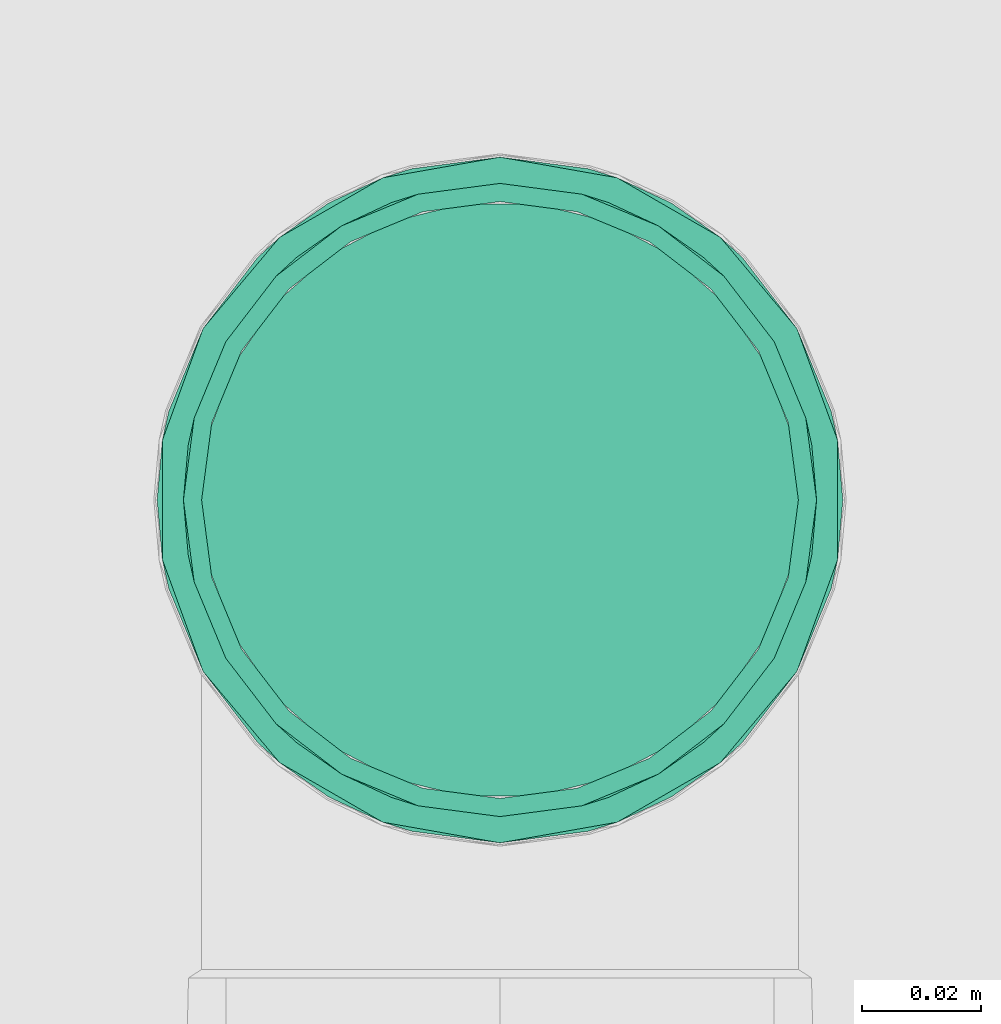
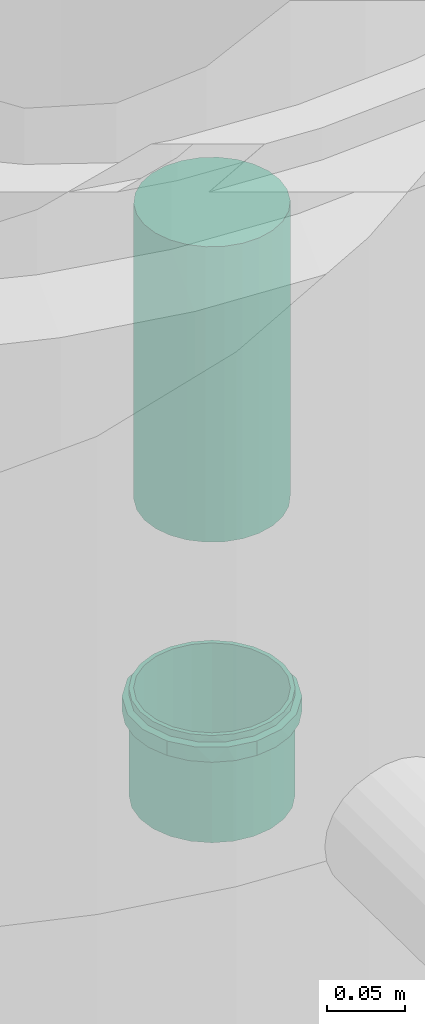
# One storey, part 175 of 589: 1 flow fitting, 1 flow segment.
"""IFC2X3 building model written with IfcOpenShell, lengths in millimetres."""

from ifc_helpers import new_model, entity, si_unit, converted_unit, derived_unit, direction, frame, origin, origin_2d_with_axis, place, context, subcontext, project, spatial, circle, extrude, faceted_brep, source, transform, mapped, material, type_object, type_shapes, element, save


model = new_model("IFC2X3")

# Units and contexts
model_context = context("Model", 3, precision=0.01, world=origin(), true_north=direction((6.123031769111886e-17, 1.0)))
body_context = subcontext(model_context, "Body", "Model", "MODEL_VIEW")
ifc_project = project(units=[si_unit("LENGTHUNIT", "METRE", prefix="MILLI"), si_unit("AREAUNIT", "SQUARE_METRE"), si_unit("VOLUMEUNIT", "CUBIC_METRE"), converted_unit("PLANEANGLEUNIT", "DEGREE", entity("IfcRatioMeasure", 0.017453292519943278), si_unit("PLANEANGLEUNIT", "RADIAN"), dimensions=[0, 0, 0, 0, 0, 0, 0]), si_unit("MASSUNIT", "GRAM", prefix="KILO"), derived_unit("MASSDENSITYUNIT", [(si_unit("MASSUNIT", "GRAM", prefix="KILO"), 1), (si_unit("LENGTHUNIT", "METRE"), -3)]), derived_unit("IONCONCENTRATIONUNIT", [(si_unit("MASSUNIT", "GRAM", prefix="KILO"), 1), (si_unit("LENGTHUNIT", "METRE"), -3)]), derived_unit("MOMENTOFINERTIAUNIT", [(si_unit("LENGTHUNIT", "METRE"), 4)]), si_unit("TIMEUNIT", "SECOND"), si_unit("FREQUENCYUNIT", "HERTZ"), si_unit("THERMODYNAMICTEMPERATUREUNIT", "DEGREE_CELSIUS"), derived_unit("THERMALTRANSMITTANCEUNIT", [(si_unit("MASSUNIT", "GRAM", prefix="KILO"), 1), (si_unit("THERMODYNAMICTEMPERATUREUNIT", "KELVIN"), -1), (si_unit("TIMEUNIT", "SECOND"), -3)]), derived_unit("THERMALCONDUCTANCEUNIT", [(si_unit("MASSUNIT", "GRAM", prefix="KILO"), 1), (si_unit("THERMODYNAMICTEMPERATUREUNIT", "KELVIN"), -1), (si_unit("TIMEUNIT", "SECOND"), -3), (si_unit("LENGTHUNIT", "METRE"), 1)]), derived_unit("VOLUMETRICFLOWRATEUNIT", [(si_unit("LENGTHUNIT", "METRE"), 3), (si_unit("TIMEUNIT", "SECOND"), -1)]), derived_unit("MASSFLOWRATEUNIT", [(si_unit("MASSUNIT", "GRAM", prefix="KILO"), 1), (si_unit("TIMEUNIT", "SECOND"), -1)]), derived_unit("ROTATIONALFREQUENCYUNIT", [(si_unit("TIMEUNIT", "SECOND"), -1)]), si_unit("ELECTRICCURRENTUNIT", "AMPERE"), si_unit("ELECTRICVOLTAGEUNIT", "VOLT"), si_unit("POWERUNIT", "WATT"), si_unit("FORCEUNIT", "NEWTON", prefix="KILO"), si_unit("ILLUMINANCEUNIT", "LUX"), si_unit("LUMINOUSFLUXUNIT", "LUMEN"), si_unit("LUMINOUSINTENSITYUNIT", "CANDELA"), derived_unit("USERDEFINED", [(si_unit("MASSUNIT", "GRAM", prefix="KILO"), -1), (si_unit("LENGTHUNIT", "METRE"), -2), (si_unit("TIMEUNIT", "SECOND"), 3), (si_unit("LUMINOUSFLUXUNIT", "LUMEN"), 1)]), derived_unit("USERDEFINED", [(si_unit("MASSUNIT", "GRAM", prefix="KILO"), 1), (si_unit("TIMEUNIT", "SECOND"), -3), (si_unit("LENGTHUNIT", "METRE"), 3), (si_unit("ELECTRICCURRENTUNIT", "AMPERE"), -2)]), derived_unit("SOUNDPOWERUNIT", [(si_unit("MASSUNIT", "GRAM", prefix="KILO"), 1), (si_unit("TIMEUNIT", "SECOND"), -3), (si_unit("LENGTHUNIT", "METRE"), 2)]), derived_unit("SOUNDPRESSUREUNIT", [(si_unit("MASSUNIT", "GRAM", prefix="KILO"), 1), (si_unit("LENGTHUNIT", "METRE"), -1), (si_unit("TIMEUNIT", "SECOND"), -2)]), derived_unit("LINEARVELOCITYUNIT", [(si_unit("LENGTHUNIT", "METRE"), 1), (si_unit("TIMEUNIT", "SECOND"), -1)]), si_unit("PRESSUREUNIT", "PASCAL"), derived_unit("USERDEFINED", [(si_unit("MASSUNIT", "GRAM", prefix="KILO"), 1), (si_unit("LENGTHUNIT", "METRE"), -2), (si_unit("TIMEUNIT", "SECOND"), -2)]), derived_unit("LINEARFORCEUNIT", [(si_unit("MASSUNIT", "GRAM", prefix="KILO"), 1), (si_unit("TIMEUNIT", "SECOND"), -2)]), derived_unit("PLANARFORCEUNIT", [(si_unit("MASSUNIT", "GRAM", prefix="KILO"), 1), (si_unit("LENGTHUNIT", "METRE"), -1), (si_unit("TIMEUNIT", "SECOND"), -2)]), derived_unit("SPECIFICHEATCAPACITYUNIT", [(si_unit("THERMODYNAMICTEMPERATUREUNIT", "KELVIN"), -1), (si_unit("LENGTHUNIT", "METRE"), 2), (si_unit("TIMEUNIT", "SECOND"), -2)]), derived_unit("HEATINGVALUEUNIT", [(si_unit("LENGTHUNIT", "METRE"), 2), (si_unit("TIMEUNIT", "SECOND"), -2)]), derived_unit("VAPORPERMEABILITYUNIT", [(si_unit("LENGTHUNIT", "METRE"), -1), (si_unit("TIMEUNIT", "SECOND"), 1)]), derived_unit("DYNAMICVISCOSITYUNIT", [(si_unit("MASSUNIT", "GRAM", prefix="KILO"), 1), (si_unit("TIMEUNIT", "SECOND"), -1), (si_unit("LENGTHUNIT", "METRE"), -1)]), derived_unit("THERMALEXPANSIONCOEFFICIENTUNIT", [(si_unit("THERMODYNAMICTEMPERATUREUNIT", "KELVIN"), -1)]), derived_unit("MODULUSOFELASTICITYUNIT", [(si_unit("MASSUNIT", "GRAM", prefix="KILO"), 1), (si_unit("LENGTHUNIT", "METRE"), -1), (si_unit("TIMEUNIT", "SECOND"), -2)]), derived_unit("ISOTHERMALMOISTURECAPACITYUNIT", [(si_unit("LENGTHUNIT", "METRE"), 3), (si_unit("MASSUNIT", "GRAM", prefix="KILO"), -1)]), derived_unit("MOISTUREDIFFUSIVITYUNIT", [(si_unit("TIMEUNIT", "SECOND"), -1), (si_unit("LENGTHUNIT", "METRE"), 2)])], contexts=[model_context])

# Site, building, storey
site_placement = place(None, origin())
site = spatial("IfcSite", under=ifc_project, at=site_placement, Name="Default", CompositionType="ELEMENT")
building_placement = place(site_placement, origin())
building = spatial("IfcBuilding", under=site, at=building_placement, CompositionType="ELEMENT")
storey_placement = place(building_placement, frame((0.0, 0.0, 100.0)))
storey = spatial("IfcBuildingStorey", under=building, at=storey_placement, Name="TÉRREO", CompositionType="ELEMENT", Elevation=100.0)

# Flow segment
pipe_segment_type = type_object("IfcPipeSegmentType", Name="Tipos de tubos:PVC Esgoto Série Normal", PredefinedType="NOTDEFINED")
flow_segment_placement = place(storey_placement, origin())
element("IfcFlowSegment", 1, at=flow_segment_placement, inside=storey, type_object=pipe_segment_type, Name="Tipos de tubos:PVC Esgoto Série Normal", ObjectType="Tipos de tubos:PVC Esgoto Série Normal", context=body_context, shape_type="SweptSolid", body=[
    extrude(circle(Radius=50.0, at=origin_2d_with_axis()), frame((20055.667196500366, -9094.0021263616, -547.5499999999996), z_axis=(0.0, 0.0, 1.0), x_axis=(-1.0, 0.0, 0.0)), (0.0, 0.0, 1.0), 229.9999999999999),
])

# Flow fitting
ifc_material = material(Name="PVC Série Normal")
pipe_fitting_type = type_object("IfcPipeFittingType", Name="PVC Esgoto_Luva Simples para Conexão_Rodrigo MEP:Standard", PredefinedType="NOTDEFINED", material=ifc_material)
shared_shape = source(origin(), body_context, "Body", "Brep", [
    faceted_brep([(17.770000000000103, 28.72500000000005, -49.753159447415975), (17.770000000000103, 40.62328457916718, -40.62328457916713), (17.770000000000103, 26.524999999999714, -45.94264767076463), (17.770000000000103, 13.730350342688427, -51.242365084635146), (17.770000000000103, 14.86915414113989, -55.49243872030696), (17.770000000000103, 37.5120147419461, -37.51201474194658), (17.770000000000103, 49.75315944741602, -28.724999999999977), (17.770000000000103, 45.94264767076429, -26.52500000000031), (17.770000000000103, 51.24236508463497, -13.730350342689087), (17.770000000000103, 55.49243872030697, -14.869154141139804), (17.770000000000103, 53.05, 0.0), (17.770000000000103, 57.45, 0.0), (17.770000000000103, 51.242365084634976, 13.730350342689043), (17.770000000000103, 55.49243872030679, 14.869154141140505), (17.770000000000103, 45.942647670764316, 26.52500000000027), (17.770000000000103, 49.753159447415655, 28.725000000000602), (17.770000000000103, 37.51201474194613, 37.51201474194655), (17.770000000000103, 40.62328457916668, 40.62328457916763), (17.770000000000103, 26.524999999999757, 45.9426476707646), (17.770000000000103, 28.72499999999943, 49.75315944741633), (17.770000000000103, 13.730350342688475, 51.24236508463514), (17.770000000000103, 14.8691541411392, 55.49243872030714), (17.770000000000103, 0.0, 53.05), (17.770000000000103, 0.0, 57.45), (17.770000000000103, -13.730350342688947, 51.24236508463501), (17.770000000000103, -14.869154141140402, 55.49243872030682), (17.770000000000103, -26.52500000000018, 45.94264767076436), (17.770000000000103, -28.725000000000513, 49.753159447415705), (17.770000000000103, -37.51201474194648, 37.5120147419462), (17.770000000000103, -40.62328457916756, 40.62328457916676), (17.770000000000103, -45.94264767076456, 26.524999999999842), (17.770000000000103, -49.7531594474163, 28.724999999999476), (17.770000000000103, -55.49243872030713, 14.869154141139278), (17.770000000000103, -51.24236508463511, 13.730350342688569), (17.770000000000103, -57.45, 0.0), (17.770000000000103, -53.05, 0.0), (17.770000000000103, -55.49243872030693, -14.86915414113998), (17.770000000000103, -51.24236508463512, -13.73035034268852), (17.770000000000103, -49.75315944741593, -28.72500000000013), (17.770000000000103, -45.942647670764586, -26.5249999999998), (17.770000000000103, -40.62328457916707, -40.62328457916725), (17.770000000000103, -37.512014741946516, -37.51201474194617), (17.770000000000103, -28.724999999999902, -49.75315944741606), (17.770000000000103, -26.525000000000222, -45.94264767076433), (17.770000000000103, -14.869154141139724, -55.492438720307), (17.770000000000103, -13.730350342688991, -51.242365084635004), (17.770000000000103, 0.0, -57.45), (17.770000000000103, 0.0, -53.05), (6.570000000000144, -19.34638876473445, 53.16657713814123), (6.57000000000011, -44.00761900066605, 36.93009572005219), (6.5700000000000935, -48.99626263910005, 28.290173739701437), (6.5700000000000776, -53.98490627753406, 19.65025175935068), (6.570000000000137, -28.721697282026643, 49.75506612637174), (6.570000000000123, -36.36465814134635, 43.34258092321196), (6.57000000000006, -55.71745313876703, 9.825125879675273), (6.570000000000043, -57.45, 0.0), (6.570000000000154, -9.971080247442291, 56.57808814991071), (6.570000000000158, 9.98234714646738, 56.576101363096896), (6.570000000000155, 0.005633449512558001, 56.577094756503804), (6.570000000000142, 36.37328876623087, 43.33533831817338), (6.570000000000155, 19.356976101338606, 53.16272339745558), (6.570000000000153, 28.73160505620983, 49.749345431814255), (6.5700000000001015, 53.988818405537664, 19.639500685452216), (6.570000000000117, 49.00189544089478, 28.280415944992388), (6.570000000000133, 44.01497247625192, 36.921331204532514), (6.570000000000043, 57.45, 0.0), (6.569999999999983, 44.01497247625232, -36.92133120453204), (6.569999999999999, 49.0018954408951, -28.280415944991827), (6.570000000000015, 53.98881840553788, -19.63950068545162), (6.569999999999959, 28.731605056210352, -49.74934543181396), (6.569999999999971, 36.37328876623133, -43.335338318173), (6.569999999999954, 19.35697610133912, -53.16272339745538), (6.569999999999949, 9.982347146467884, -56.57610136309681), (6.569999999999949, -9.97108024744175, -56.578088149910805), (6.569999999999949, 0.005633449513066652, -56.577094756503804), (6.569999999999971, -36.364658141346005, -43.34258092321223), (6.56999999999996, -28.72169728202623, -49.755066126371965), (6.569999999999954, -19.346388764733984, -53.16657713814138), (6.57000000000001, -53.984906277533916, -19.650251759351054), (6.569999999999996, -48.99626263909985, -28.290173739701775), (6.569999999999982, -44.007619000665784, -36.93009572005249), (6.570000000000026, -55.717453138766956, -9.825125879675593), (83.52000000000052, 26.525000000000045, -45.942647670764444), (83.52000000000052, 37.512014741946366, -37.51201474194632), (83.52000000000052, 25.0, -43.301270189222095), (83.52000000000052, 12.940952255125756, -48.2962913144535), (83.52000000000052, 13.73035034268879, -51.242365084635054), (83.52000000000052, 35.35533905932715, -35.355339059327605), (83.52000000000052, 45.94264767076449, -26.524999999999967), (83.52000000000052, 43.30127018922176, -25.0), (83.52000000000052, 48.29629131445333, -12.940952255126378), (83.52000000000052, 51.24236508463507, -13.730350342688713), (83.52000000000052, 50.0, 0.0), (83.52000000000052, 53.05, 0.0), (83.52000000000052, 48.296291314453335, 12.940952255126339), (83.52000000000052, 51.2423650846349, 13.73035034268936), (83.52000000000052, 43.30127018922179, 25.0), (83.52000000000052, 45.942647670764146, 26.525000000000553), (83.52000000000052, 35.35533905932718, 35.35533905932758), (83.52000000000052, 37.512014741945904, 37.512014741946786), (83.52000000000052, 25.0, 43.301270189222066), (83.52000000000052, 26.52499999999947, 45.94264767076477), (83.52000000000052, 12.9409522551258, 48.29629131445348), (83.52000000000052, 13.730350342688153, 51.242365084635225), (83.52000000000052, 0.0, 50.0), (83.52000000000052, 0.0, 53.05), (83.52000000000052, -12.94095225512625, 48.296291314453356), (83.52000000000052, -13.730350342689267, 51.24236508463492), (83.52000000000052, -25.0, 43.30127018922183), (83.52000000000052, -26.525000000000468, 45.942647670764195), (83.52000000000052, -35.355339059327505, 35.35533905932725), (83.52000000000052, -37.512014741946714, 37.51201474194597), (83.52000000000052, -43.30127018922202, 25.0), (83.52000000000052, -45.942647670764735, 26.524999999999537), (83.52000000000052, -51.24236508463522, 13.730350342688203), (83.52000000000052, -48.29629131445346, 12.94095225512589), (83.52000000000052, -53.05, 0.0), (83.52000000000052, -50.0, 0.0), (83.52000000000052, -51.242365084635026, -13.730350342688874), (83.52000000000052, -48.29629131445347, -12.940952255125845), (83.52000000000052, -45.9426476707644, -26.525000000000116), (83.52000000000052, -43.301270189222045, -25.0), (83.52000000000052, -37.51201474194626, -37.51201474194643), (83.52000000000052, -35.35533905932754, -35.355339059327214), (83.52000000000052, -26.524999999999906, -45.94264767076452), (83.52000000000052, -25.0, -43.30127018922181), (83.52000000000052, -13.730350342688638, -51.2423650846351), (83.52000000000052, -12.94095225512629, -48.29629131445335), (83.52000000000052, 0.0, -53.05), (83.52000000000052, 0.0, -50.0), (0.0, 25.0, -43.301270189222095), (0.0, 37.512014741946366, -37.51201474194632), (0.0, 26.525000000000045, -45.942647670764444), (0.0, 12.940952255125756, -48.2962913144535), (0.0, 35.35533905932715, -35.355339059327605), (0.0, 45.94264767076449, -26.524999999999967), (0.0, 43.30127018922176, -25.0), (0.0, 48.29629131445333, -12.940952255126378), (0.0, 51.24236508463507, -13.730350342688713), (0.0, 50.0, 0.0), (0.0, 53.05, 0.0), (0.0, 48.296291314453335, 12.940952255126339), (0.0, 51.2423650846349, 13.73035034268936), (0.0, 43.30127018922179, 25.0), (0.0, 45.942647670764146, 26.525000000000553), (0.0, 35.35533905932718, 35.35533905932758), (0.0, 37.512014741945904, 37.512014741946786), (0.0, 25.0, 43.301270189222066), (0.0, 26.52499999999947, 45.94264767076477), (0.0, 12.9409522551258, 48.29629131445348), (0.0, 13.730350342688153, 51.242365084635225), (0.0, 0.0, 50.0), (0.0, 0.0, 53.05), (0.0, -12.94095225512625, 48.296291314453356), (0.0, -13.730350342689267, 51.24236508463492), (0.0, -25.0, 43.30127018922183), (0.0, -26.525000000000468, 45.942647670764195), (0.0, -35.355339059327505, 35.35533905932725), (0.0, -37.512014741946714, 37.51201474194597), (0.0, -43.30127018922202, 25.0), (0.0, -45.942647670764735, 26.524999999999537), (0.0, -51.24236508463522, 13.730350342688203), (0.0, -48.29629131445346, 12.94095225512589), (0.0, -53.05, 0.0), (0.0, -50.0, 0.0), (0.0, -51.242365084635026, -13.730350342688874), (0.0, -48.29629131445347, -12.940952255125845), (0.0, -45.9426476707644, -26.525000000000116), (0.0, -43.301270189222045, -25.0), (0.0, -37.51201474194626, -37.51201474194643), (0.0, -35.35533905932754, -35.355339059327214), (0.0, -26.524999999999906, -45.94264767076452), (0.0, -25.0, -43.30127018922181), (0.0, -13.730350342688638, -51.2423650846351), (0.0, -12.94095225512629, -48.29629131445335), (0.0, 0.0, -53.05), (0.0, 0.0, -50.0), (0.0, 13.73035034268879, -51.242365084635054), (5.370000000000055, -53.05, 0.0), (5.370000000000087, -49.85079898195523, 18.143878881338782), (5.370000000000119, -40.63905406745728, 34.09941032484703), (5.370000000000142, -26.525801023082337, 45.942185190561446), (5.3700000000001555, -9.213250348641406, 52.24383712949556), (5.370000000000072, 51.44992493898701, 9.073243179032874), (5.370000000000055, 53.05, 0.0), (5.370000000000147, 26.523397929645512, 45.943572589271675), (5.370000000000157, 9.210517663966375, 52.244318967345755), (5.3700000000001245, 40.63727040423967, 34.10153594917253), (5.370000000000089, 49.84984987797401, 18.146486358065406), (5.370000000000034, 51.4499249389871, -9.073243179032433), (5.370000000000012, 49.84984987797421, -18.146486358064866), (5.369999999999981, 40.63727040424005, -34.101535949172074), (5.36999999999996, 26.523397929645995, -45.9435725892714), (5.369999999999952, 9.21051766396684, -52.24431896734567), (5.369999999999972, -26.52580102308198, -45.94218519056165), (5.369999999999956, -9.213250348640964, -52.24383712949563), (5.369999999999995, -40.63905406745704, -34.099410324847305), (5.370000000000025, -49.8507989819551, -18.143878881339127), (50.0, -50.0, 0.0), (50.0, 50.0, 0.0)], [[[0, 1, 2]], [[0, 2, 3]], [[3, 4, 0]], [[2, 1, 5]], [[6, 5, 1]], [[5, 6, 7]], [[7, 6, 8]], [[9, 8, 6]], [[9, 10, 8]], [[10, 9, 11]], [[12, 10, 11]], [[11, 13, 12]], [[12, 13, 14]], [[15, 14, 13]], [[14, 15, 16]], [[16, 15, 17]], [[18, 16, 17]], [[17, 19, 18]], [[18, 19, 20]], [[21, 20, 19]], [[20, 21, 22]], [[22, 21, 23]], [[22, 23, 24]], [[24, 23, 25]], [[24, 25, 26]], [[27, 26, 25]], [[27, 28, 26]], [[28, 27, 29]], [[29, 30, 28]], [[31, 30, 29]], [[30, 31, 32]], [[32, 33, 30]], [[34, 33, 32]], [[34, 35, 33]], [[36, 35, 34]], [[36, 37, 35]], [[37, 36, 38]], [[38, 39, 37]], [[39, 38, 40]], [[39, 40, 41]], [[40, 42, 41]], [[41, 42, 43]], [[43, 42, 44]], [[44, 45, 43]], [[46, 45, 44]], [[4, 47, 46]], [[46, 47, 45]], [[4, 3, 47]], [[48, 27, 25]], [[31, 29, 49]], [[31, 49, 50, 51]], [[52, 53, 27]], [[32, 51, 54]], [[54, 55, 34]], [[54, 34, 32]], [[25, 56, 48]], [[49, 29, 53]], [[23, 57, 58, 56]], [[59, 19, 17]], [[27, 53, 29]], [[48, 52, 27]], [[31, 51, 32]], [[57, 23, 21]], [[60, 19, 61]], [[15, 62, 63, 64]], [[19, 60, 21]], [[15, 13, 62]], [[17, 64, 59]], [[57, 21, 60]], [[23, 56, 25]], [[15, 64, 17]], [[13, 65, 62]], [[13, 11, 65]], [[59, 61, 19]], [[65, 11, 9]], [[6, 1, 66]], [[6, 66, 67, 68]], [[69, 70, 0]], [[68, 65, 9]], [[71, 69, 0]], [[71, 0, 4]], [[4, 72, 71]], [[66, 1, 70]], [[46, 73, 74, 72]], [[75, 76, 42]], [[0, 70, 1]], [[75, 42, 40]], [[6, 68, 9]], [[73, 46, 44]], [[77, 42, 76]], [[38, 78, 79, 80]], [[42, 77, 44]], [[38, 36, 78]], [[40, 80, 75]], [[73, 44, 77]], [[46, 72, 4]], [[38, 80, 40]], [[81, 78, 36]], [[55, 81, 34]], [[34, 81, 36]], [[82, 83, 84]], [[82, 84, 85]], [[85, 86, 82]], [[84, 83, 87]], [[88, 87, 83]], [[87, 88, 89]], [[89, 88, 90]], [[91, 90, 88]], [[91, 92, 90]], [[92, 91, 93]], [[94, 92, 93]], [[93, 95, 94]], [[94, 95, 96]], [[97, 96, 95]], [[96, 97, 98]], [[98, 97, 99]], [[100, 98, 99]], [[99, 101, 100]], [[100, 101, 102]], [[103, 102, 101]], [[102, 103, 104]], [[104, 103, 105]], [[104, 105, 106]], [[106, 105, 107]], [[106, 107, 108]], [[109, 108, 107]], [[110, 108, 109]], [[110, 109, 111]], [[111, 112, 110]], [[113, 112, 111]], [[112, 113, 114]], [[114, 115, 112]], [[116, 115, 114]], [[116, 117, 115]], [[118, 117, 116]], [[118, 119, 117]], [[119, 118, 120]], [[120, 121, 119]], [[121, 120, 122]], [[121, 122, 123]], [[122, 124, 123]], [[125, 123, 124]], [[125, 124, 126]], [[126, 127, 125]], [[128, 127, 126]], [[86, 129, 128]], [[128, 129, 127]], [[86, 85, 129]], [[130, 131, 132]], [[133, 130, 132]], [[134, 131, 130]], [[131, 134, 135]], [[136, 135, 134]], [[137, 135, 136]], [[135, 137, 138]], [[137, 139, 138]], [[140, 138, 139]], [[140, 139, 141]], [[141, 142, 140]], [[143, 142, 141]], [[142, 143, 144]], [[145, 144, 143]], [[146, 144, 145]], [[146, 145, 147]], [[147, 148, 146]], [[149, 148, 147]], [[148, 149, 150]], [[151, 150, 149]], [[152, 150, 151]], [[153, 152, 151]], [[154, 152, 153]], [[155, 154, 153]], [[154, 155, 156]], [[156, 155, 157]], [[158, 156, 157]], [[157, 159, 158]], [[158, 159, 160]], [[161, 160, 159]], [[159, 162, 161]], [[161, 162, 163]], [[162, 164, 163]], [[163, 164, 165]], [[164, 166, 165]], [[167, 165, 166]], [[166, 168, 167]], [[169, 167, 168]], [[170, 169, 168]], [[170, 171, 169]], [[171, 170, 172]], [[173, 171, 172]], [[172, 174, 173]], [[173, 174, 175]], [[174, 176, 175]], [[176, 133, 177]], [[175, 176, 177]], [[132, 177, 133]], [[161, 178, 179]], [[158, 180, 181]], [[179, 180, 160]], [[181, 182, 154]], [[179, 160, 161]], [[161, 163, 178]], [[35, 116, 114, 33]], [[183, 184, 140]], [[181, 156, 158]], [[158, 160, 180]], [[181, 154, 156]], [[182, 152, 154]], [[183, 140, 142]], [[185, 150, 186]], [[187, 146, 185]], [[142, 188, 183]], [[187, 188, 144]], [[185, 148, 150]], [[150, 152, 186]], [[187, 144, 146]], [[146, 148, 185]], [[188, 142, 144]], [[186, 152, 182]], [[189, 190, 138]], [[131, 191, 192]], [[190, 191, 135]], [[192, 193, 177]], [[190, 135, 138]], [[184, 189, 140]], [[192, 132, 131]], [[131, 135, 191]], [[192, 177, 132]], [[193, 175, 177]], [[140, 189, 138]], [[194, 173, 195]], [[196, 169, 194]], [[165, 197, 178]], [[196, 197, 167]], [[165, 178, 163]], [[35, 37, 118, 116]], [[194, 171, 173]], [[173, 175, 195]], [[196, 167, 169]], [[169, 171, 194]], [[197, 165, 167]], [[195, 175, 193]], [[115, 117, 198, 164, 162]], [[155, 108, 110, 157]], [[110, 112, 159, 157]], [[112, 115, 162, 159]], [[106, 108, 155, 153]], [[153, 151, 104, 106]], [[102, 104, 151, 149]], [[102, 149, 147, 100]], [[141, 94, 96, 143]], [[96, 98, 145, 143]], [[98, 100, 147, 145]], [[92, 94, 141, 139, 199]], [[199, 139, 137, 90, 92]], [[87, 89, 136, 134]], [[134, 130, 84, 87]], [[89, 90, 137, 136]], [[85, 84, 130, 133]], [[133, 176, 129, 85]], [[127, 129, 176, 174]], [[127, 174, 172, 125]], [[166, 119, 121, 168]], [[121, 123, 170, 168]], [[123, 125, 172, 170]], [[117, 119, 166, 164, 198]], [[81, 178, 197]], [[190, 68, 67]], [[194, 75, 196]], [[193, 72, 74]], [[195, 77, 194]], [[79, 197, 196]], [[81, 55, 178]], [[192, 69, 71]], [[79, 78, 197]], [[194, 77, 76]], [[191, 66, 70]], [[80, 196, 75]], [[68, 190, 189]], [[74, 195, 193]], [[192, 71, 193]], [[190, 67, 191]], [[70, 192, 191]], [[65, 189, 184]], [[195, 73, 77]], [[193, 71, 72]], [[197, 78, 81]], [[191, 67, 66]], [[189, 65, 68]], [[196, 80, 79]], [[70, 69, 192]], [[194, 76, 75]], [[73, 195, 74]], [[65, 183, 62]], [[48, 56, 182]], [[58, 182, 56]], [[54, 51, 179]], [[59, 185, 61]], [[60, 186, 57]], [[53, 52, 181]], [[63, 187, 64]], [[58, 57, 186]], [[187, 63, 188]], [[186, 60, 185]], [[50, 49, 180]], [[185, 59, 187]], [[59, 64, 187]], [[182, 58, 186]], [[50, 179, 51]], [[54, 178, 55]], [[53, 180, 49]], [[63, 62, 188]], [[181, 48, 182]], [[183, 65, 184]], [[179, 50, 180]], [[178, 54, 179]], [[183, 188, 62]], [[180, 53, 181]], [[60, 61, 185]], [[48, 181, 52]], [[30, 33, 114, 113]], [[26, 28, 111, 109]], [[113, 111, 28, 30]], [[107, 24, 26, 109]], [[107, 105, 22, 24]], [[18, 20, 103, 101]], [[99, 16, 18, 101]], [[12, 14, 97, 95]], [[99, 97, 14, 16]], [[10, 12, 95, 93]], [[103, 20, 22, 105]], [[91, 8, 10, 93]], [[88, 7, 8, 91]], [[82, 86, 3, 2]], [[83, 5, 7, 88]], [[2, 5, 83, 82]], [[86, 128, 47, 3]], [[43, 45, 126, 124]], [[122, 41, 43, 124]], [[37, 39, 120, 118]], [[122, 120, 39, 41]], [[126, 45, 47, 128]]]),
])
type_shapes(pipe_fitting_type, [shared_shape])
flow_fitting_placement = place(storey_placement, frame((20055.66719650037, -9094.002126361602, -695.8399999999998), z_axis=(1.0, 0.0, 0.0), x_axis=(0.0, 0.0, -1.0)))
element("IfcFlowFitting", 2, at=flow_fitting_placement, inside=storey, type_object=pipe_fitting_type, material=ifc_material, Name="PVC Esgoto_Luva Simples para Conexão_Rodrigo MEP:Standard", ObjectType="PVC Esgoto_Luva Simples para Conexão_Rodrigo MEP:Standard", context=body_context, shape_type="MappedRepresentation", body=[
    mapped(shared_shape, transform((0.0, 0.0, 0.0), scale=1.0)),
])

save(model, "model.ifc")
